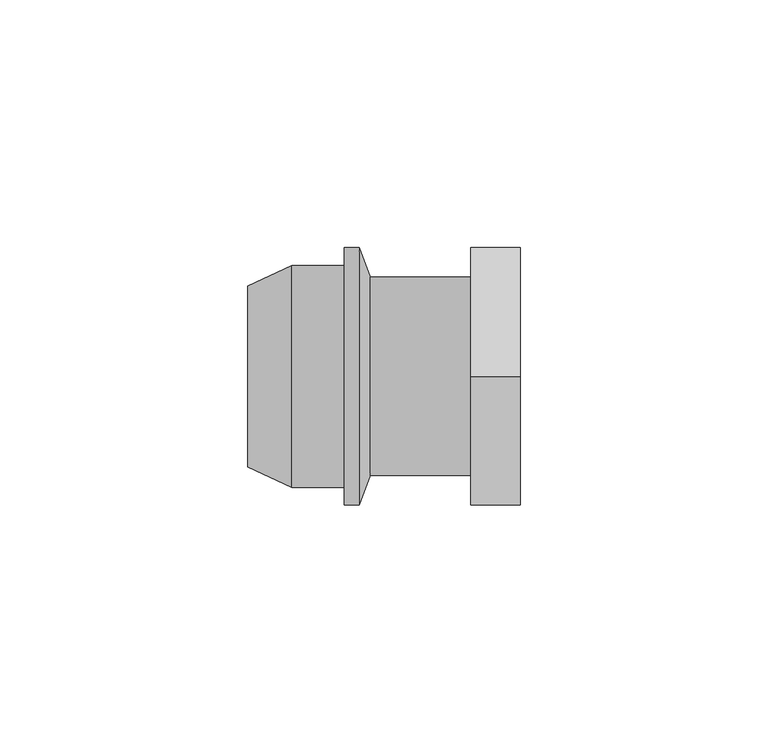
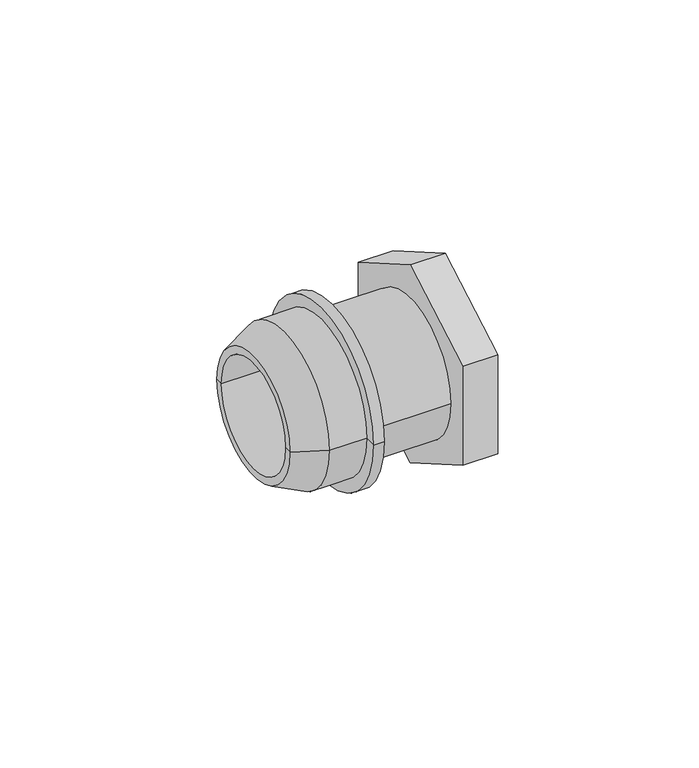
"""IFC4 building model written with IfcOpenShell, lengths in millimetres: pipe fitting geometry."""

from ifc_helpers import new_model, si_unit, point, frame, origin, origin_2d, place, context, project, spatial, polyline, circle_curve, trimmed, segment, composite_curve, outline, extrude, source, transform, mapped, element, save
from ifc_brep_helpers import plane_surface, cylinder_surface, revolved_surface, advanced_brep


def pipe_fitting_dc1d4dc1(model_context):
    return source(origin(), model_context, "Body", "SolidModel", [
        extrude(outline(polyline([(-26.0, -15.011107), (-26.0, 15.011107), (0.0, 30.022214), (26.0, 15.011107), (26.0, -15.011107), (0.0, -30.022214), (-26.0, -15.011107)]), holes=[composite_curve([segment(trimmed(circle_curve(origin_2d(), 20.0), [point((-20.0, 0.0))], [point((20.0, 0.0))], True, "CARTESIAN"), True, "CONTINUOUS"), segment(trimmed(circle_curve(origin_2d(), 20.0), [point((20.0, 0.0))], [point((-20.0, 0.0))], True, "CARTESIAN"), True, "CONTINUOUS")], self_intersect=False)]), frame((17.5, 0.0, 0.0), z_axis=(1.0, 0.0, 0.0), x_axis=(0.0, 1.0, 0.0)), (0.0, 0.0, 1.0), 10.0),
        advanced_brep(
        [(-8.0, -22.4, 0.0), (-8.0, 22.4, 0.0), (-8.0, 0.0, 0.0), (-18.6002963, -22.4, 0.0), (-18.6002963, 22.4, 0.0), (-27.5, -18.25, 0.0), (-27.5, 18.25, 0.0), (-10.0, -16.0, 0.0), (-10.0, 16.0, 0.0), (-27.5, 16.0, 0.0), (-27.5, -16.0, 0.0), (-10.0, 0.0, 0.0)],
        [
            (0, 1, circle_curve(frame((-8.0, 0.0, 0.0), z_axis=(1.0, 0.0, 0.0), x_axis=(0.0, 1.0, 0.0)), 22.4)),
            (1, 2),
            (2, 0),
            (1, 0, circle_curve(frame((-8.0, 0.0, 0.0), z_axis=(1.0, 0.0, 0.0), x_axis=(0.0, 1.0, 0.0)), 22.4)),
            (3, 4, circle_curve(frame((-18.6002963, 0.0, 0.0), z_axis=(1.0, 0.0, 0.0), x_axis=(0.0, 1.0, 0.0)), 22.4)),
            (4, 1),
            (0, 3),
            (4, 3, circle_curve(frame((-18.6002963, 0.0, 0.0), z_axis=(1.0, 0.0, 0.0), x_axis=(0.0, 1.0, 0.0)), 22.4)),
            (5, 6, circle_curve(frame((-27.5, 0.0, 0.0), z_axis=(1.0, 0.0, 0.0), x_axis=(0.0, 1.0, 0.0)), 18.25)),
            (6, 4),
            (3, 5),
            (6, 5, circle_curve(frame((-27.5, 0.0, 0.0), z_axis=(1.0, 0.0, 0.0), x_axis=(0.0, 1.0, 0.0)), 18.25)),
            (7, 8, circle_curve(frame((-10.0, 0.0, 0.0), z_axis=(1.0, 0.0, 0.0), x_axis=(0.0, 1.0, 0.0)), 16.0)),
            (8, 9),
            (9, 10, circle_curve(frame((-27.5, 0.0, 0.0), z_axis=(-1.0, 0.0, 0.0), x_axis=(0.0, 1.0, 0.0)), 16.0)),
            (10, 7),
            (8, 7, circle_curve(frame((-10.0, 0.0, 0.0), z_axis=(1.0, 0.0, 0.0), x_axis=(0.0, 1.0, 0.0)), 16.0)),
            (10, 9, circle_curve(frame((-27.5, 0.0, 0.0), z_axis=(-1.0, 0.0, 0.0), x_axis=(0.0, 1.0, 0.0)), 16.0)),
            (11, 8),
            (7, 11),
            (9, 6),
            (5, 10),
        ],
        [
            plane_surface(frame((-8.0, 0.0, 0.0), z_axis=(1.0, 0.0, 0.0), x_axis=(0.0, 1.0, 0.0))),
            cylinder_surface(frame((-37.5, 0.0, 0.0), z_axis=(-1.0, 0.0, 0.0), x_axis=(0.0, 1.0, 0.0)), 22.4),
            revolved_surface(polyline([(-18.6002963, 22.4, 0.0), (-27.5, 18.25, 0.0)]), (-37.5, 0.0, 0.0), (-1.0, 0.0, 0.0)),
            revolved_surface(polyline([(-27.5, 16.0, 0.0), (-10.0, 16.0, 0.0)]), (-37.5, 0.0, 0.0), (-1.0, 0.0, 0.0)),
            plane_surface(frame((-10.0, 0.0, 0.0), z_axis=(-1.0, 0.0, 0.0), x_axis=(0.0, 1.0, 0.0))),
            plane_surface(frame((-27.5, 0.0, 0.0), z_axis=(-1.0, 0.0, 0.0), x_axis=(0.0, 1.0, 0.0))),
        ],
        [
            (0, [[1, 2, 3]]),
            (0, [[4, -3, -2]]),
            (1, [[5, 6, -1, 7]]),
            (1, [[8, -7, -4, -6]]),
            (2, [[9, 10, -5, 11]]),
            (2, [[12, -11, -8, -10]]),
            (3, [[13, 14, 15, 16]]),
            (3, [[17, -16, 18, -14]]),
            (4, [[19, -13, 20]]),
            (4, [[-20, -17, -19]]),
            (5, [[-15, 21, -9, 22]]),
            (5, [[-18, -22, -12, -21]]),
        ],
    ),
        advanced_brep(
        [(-8.0, -26.0, 0.0), (-8.0, 26.0, 0.0), (-5.0, 26.0, 0.0), (-5.0, -26.0, 0.0), (-8.0, 0.0, 0.0), (27.5, -20.0, 0.0), (27.5, 20.0, 0.0), (27.5, 16.85, 0.0), (27.5, -16.85, 0.0), (-2.8161786, -20.0, 0.0), (-2.8161786, 20.0, 0.0), (22.0, -16.85, 0.0), (22.0, 16.85, 0.0), (22.0, 0.0, 0.0)],
        [
            (0, 1, circle_curve(frame((-8.0, 0.0, 0.0), z_axis=(1.0, 0.0, 0.0), x_axis=(0.0, 1.0, 0.0)), 26.0)),
            (1, 2),
            (2, 3, circle_curve(frame((-5.0, 0.0, 0.0), z_axis=(-1.0, 0.0, 0.0), x_axis=(0.0, 1.0, 0.0)), 26.0)),
            (3, 0),
            (1, 0, circle_curve(frame((-8.0, 0.0, 0.0), z_axis=(1.0, 0.0, 0.0), x_axis=(0.0, 1.0, 0.0)), 26.0)),
            (3, 2, circle_curve(frame((-5.0, 0.0, 0.0), z_axis=(-1.0, 0.0, 0.0), x_axis=(0.0, 1.0, 0.0)), 26.0)),
            (0, 4),
            (4, 1),
            (5, 6, circle_curve(frame((27.5, 0.0, 0.0), z_axis=(1.0, 0.0, 0.0), x_axis=(0.0, 1.0, 0.0)), 20.0)),
            (6, 7),
            (7, 8, circle_curve(frame((27.5, 0.0, 0.0), z_axis=(-1.0, 0.0, 0.0), x_axis=(0.0, 1.0, 0.0)), 16.85)),
            (8, 5),
            (6, 5, circle_curve(frame((27.5, 0.0, 0.0), z_axis=(1.0, 0.0, 0.0), x_axis=(0.0, 1.0, 0.0)), 20.0)),
            (8, 7, circle_curve(frame((27.5, 0.0, 0.0), z_axis=(-1.0, 0.0, 0.0), x_axis=(0.0, 1.0, 0.0)), 16.85)),
            (5, 9),
            (9, 10, circle_curve(frame((-2.8161786, 0.0, 0.0), z_axis=(1.0, 0.0, 0.0), x_axis=(0.0, 1.0, 0.0)), 20.0)),
            (10, 6),
            (10, 9, circle_curve(frame((-2.8161786, 0.0, 0.0), z_axis=(1.0, 0.0, 0.0), x_axis=(0.0, 1.0, 0.0)), 20.0)),
            (2, 10),
            (9, 3),
            (11, 8),
            (7, 12),
            (12, 11, circle_curve(frame((22.0, 0.0, 0.0), z_axis=(-1.0, 0.0, 0.0), x_axis=(0.0, 1.0, 0.0)), 16.85)),
            (11, 12, circle_curve(frame((22.0, 0.0, 0.0), z_axis=(-1.0, 0.0, 0.0), x_axis=(0.0, 1.0, 0.0)), 16.85)),
            (12, 13),
            (13, 11),
        ],
        [
            cylinder_surface(frame((49.2343882, 0.0, 0.0), z_axis=(-1.0, 0.0, 0.0), x_axis=(0.0, 1.0, 0.0)), 26.0),
            plane_surface(frame((-8.0, 0.0, 0.0), z_axis=(-1.0, 0.0, 0.0), x_axis=(0.0, 1.0, 0.0))),
            plane_surface(frame((27.5, 0.0, 0.0), z_axis=(1.0, 0.0, 0.0), x_axis=(0.0, 1.0, 0.0))),
            cylinder_surface(frame((49.2343882, 0.0, 0.0), z_axis=(-1.0, 0.0, 0.0), x_axis=(0.0, 1.0, 0.0)), 20.0),
            revolved_surface(polyline([(-2.8161786, 20.0, 0.0), (-5.0, 26.0, 0.0)]), (49.2343882, 0.0, 0.0), (-1.0, 0.0, 0.0)),
            revolved_surface(polyline([(22.0, 16.85, 0.0), (27.5, 16.85, 0.0)]), (52.342258, 0.0, 0.0), (-1.0, 0.0, 0.0)),
            plane_surface(frame((22.0, 0.0, 0.0), z_axis=(1.0, 0.0, 0.0), x_axis=(0.0, 1.0, 0.0))),
        ],
        [
            (0, [[1, 2, 3, 4]]),
            (0, [[-2, 5, -4, 6]]),
            (1, [[-1, 7, 8]]),
            (1, [[-5, -8, -7]]),
            (2, [[9, 10, 11, 12]]),
            (2, [[13, -12, 14, -10]]),
            (3, [[-9, 15, 16, 17]]),
            (3, [[-13, -17, 18, -15]]),
            (4, [[-3, 19, -16, 20]]),
            (4, [[-6, -20, -18, -19]]),
            (5, [[21, -11, 22, 23]]),
            (5, [[-21, 24, -22, -14]]),
            (6, [[-23, 25, 26]]),
            (6, [[-24, -26, -25]]),
        ],
    ),
    ])


if __name__ == "__main__":
    model = new_model("IFC4")
    model_context = context("Model", 3, world=origin())
    ifc_project = project(units=[si_unit("LENGTHUNIT", "METRE", prefix="MILLI")], contexts=[model_context])
    site = spatial("IfcSite", under=ifc_project)
    building = spatial("IfcBuilding", under=site)
    placement = place(None, origin())
    pipe_fitting_shape = pipe_fitting_dc1d4dc1(model_context)
    element("IfcPipeFitting", 1, ObjectType="NLRS_50_PIF_UN_adapter op verdeler met steekaansluiting, wartel_geb : DN25-25/R1\" / d28-28/R1\"", at=placement, inside=building, context=model_context, shape_type="MappedRepresentation", body=[
        mapped(pipe_fitting_shape, transform((0.0, 0.0, 0.0), x_axis=(1.0, 0.0, 0.0), y_axis=(0.0, 1.0, 0.0), z_axis=(0.0, 0.0, 1.0))),
    ])
    save(model, "model.ifc")
